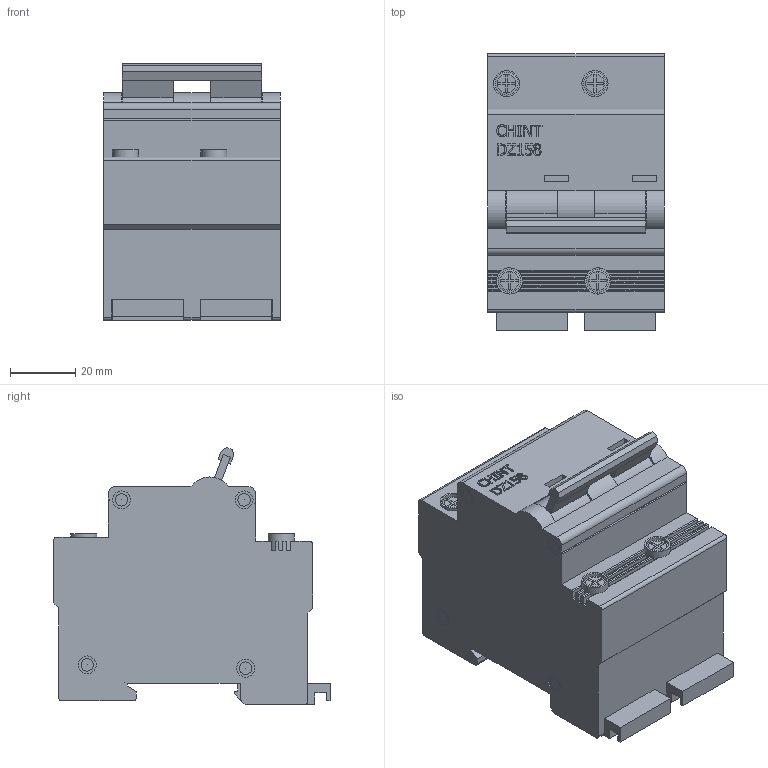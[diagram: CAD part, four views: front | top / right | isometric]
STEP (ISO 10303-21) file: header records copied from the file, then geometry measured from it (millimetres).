
FILE_DESCRIPTION(/* description */ (''),/* implementation_level */ '2;1');
FILE_NAME(/* name */ 'D:\CHINT\DZ158\Авт. выкл. DZ158 2P 63A 10kA х-ка (8-12In) (R) (CHINT).stp',/* time_stamp */ '2017-09-24T18:54:22+04:00',/* author */ ('RSagdiev'),/* organization */ (''),/* preprocessor_version */ 'ST-DEVELOPER v16.5',/* originating_system */ 'Autodesk Inventor 2017',/* authorisation */ '');
FILE_SCHEMA (('AUTOMOTIVE_DESIGN { 1 0 10303 214 3 1 1 }'));
Length unit declared in the file: millimetre
Products named in the file (1): Авт. выкл. DZ158 2P 63A 10kA \X2\0445
\X0\-ка (8-12In) (R) (CHINT)
Bounding box: 54 x 84.5 x 78.49 mm (x, y, z)
Volume: 239709.3 mm3; surface area: 35016 mm2
Topology: 10 solids, 10 shells, 492 faces, 1281 edges, 846 vertices
Faces by surface type: plane 318, cylinder 113, bspline 57, torus 4
Full cylindrical faces by diameter (mm): 0.001 x9, 3.794 x12, 5.491 x12, 7 x4, 8 x4
Entity records: 15641 total; most frequent: CARTESIAN_POINT 3931, ORIENTED_EDGE 2460, DIRECTION 2160, EDGE_CURVE 1230, LINE 848, VECTOR 848, VERTEX_POINT 840, AXIS2_PLACEMENT_3D 656
